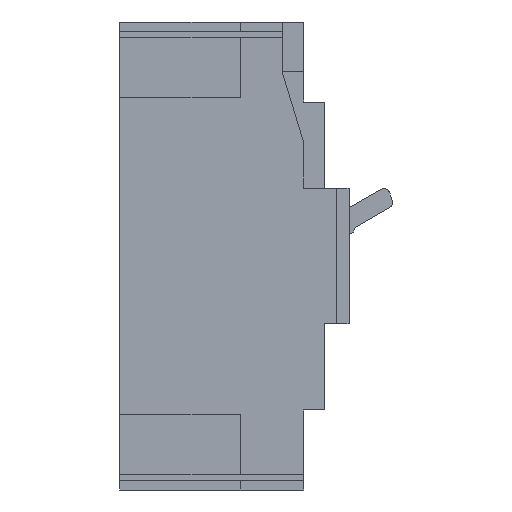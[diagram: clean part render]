
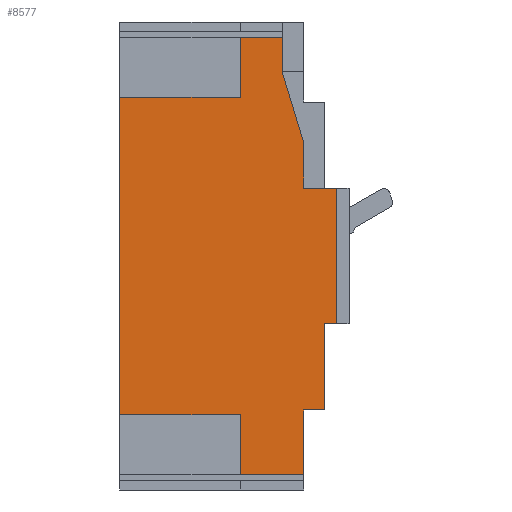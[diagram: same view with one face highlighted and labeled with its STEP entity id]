
A CAD part, left-side view. The second image highlights one B-rep face of the part: STEP entity #8577.
In plain terms, the highlighted planar face has unit normal (-1, 0, 0).
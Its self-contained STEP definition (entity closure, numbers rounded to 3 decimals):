
#2=DIRECTION('',(0.,-1.,0.));
#3=VECTOR('',#2,40.);
#4=CARTESIAN_POINT('',(-45.,30.5,-52.5));
#5=LINE('',#4,#3);
#6=DIRECTION('',(0.,0.,1.));
#7=VECTOR('',#6,105.);
#8=CARTESIAN_POINT('',(-45.,30.5,-52.5));
#9=LINE('',#8,#7);
#10=DIRECTION('',(0.,-1.,0.));
#11=VECTOR('',#10,40.);
#12=CARTESIAN_POINT('',(-45.,30.5,52.5));
#13=LINE('',#12,#11);
#14=DIRECTION('',(0.,0.,-1.));
#15=VECTOR('',#14,20.);
#16=CARTESIAN_POINT('',(-45.,-9.5,72.5));
#17=LINE('',#16,#15);
#18=DIRECTION('',(0.,-1.,0.));
#19=VECTOR('',#18,14.);
#20=CARTESIAN_POINT('',(-45.,-9.5,72.5));
#21=LINE('',#20,#19);
#22=DIRECTION('',(0.,0.,-1.));
#23=VECTOR('',#22,12.);
#24=CARTESIAN_POINT('',(-45.,-23.5,72.5));
#25=LINE('',#24,#23);
#26=DIRECTION('',(0.,0.291,0.957));
#27=VECTOR('',#26,24.042);
#28=CARTESIAN_POINT('',(-45.,-30.5,37.5));
#29=LINE('',#28,#27);
#30=DIRECTION('',(0.,0.,1.));
#31=VECTOR('',#30,15.);
#32=CARTESIAN_POINT('',(-45.,-30.5,22.5));
#33=LINE('',#32,#31);
#34=DIRECTION('',(0.,0.,-1.));
#35=VECTOR('',#34,45.);
#36=CARTESIAN_POINT('',(-45.,-41.5,22.5));
#37=LINE('',#36,#35);
#38=DIRECTION('',(0.,1.,0.));
#39=VECTOR('',#38,4.);
#40=CARTESIAN_POINT('',(-45.,-41.5,-22.5));
#41=LINE('',#40,#39);
#42=DIRECTION('',(0.,0.,-1.));
#43=VECTOR('',#42,28.5);
#44=CARTESIAN_POINT('',(-45.,-37.5,-22.5));
#45=LINE('',#44,#43);
#46=DIRECTION('',(0.,1.,0.));
#47=VECTOR('',#46,7.);
#48=CARTESIAN_POINT('',(-45.,-37.5,-51.));
#49=LINE('',#48,#47);
#50=DIRECTION('',(0.,0.,-1.));
#51=VECTOR('',#50,21.5);
#52=CARTESIAN_POINT('',(-45.,-30.5,-51.));
#53=LINE('',#52,#51);
#54=DIRECTION('',(0.,-1.,0.));
#55=VECTOR('',#54,21.);
#56=CARTESIAN_POINT('',(-45.,-9.5,-72.5));
#57=LINE('',#56,#55);
#58=DIRECTION('',(0.,0.,1.));
#59=VECTOR('',#58,20.);
#60=CARTESIAN_POINT('',(-45.,-9.5,-72.5));
#61=LINE('',#60,#59);
#707=DIRECTION('',(0.,1.,0.));
#708=VECTOR('',#707,11.);
#709=CARTESIAN_POINT('',(-45.,-41.5,22.5));
#710=LINE('',#709,#708);
#6430=CARTESIAN_POINT('',(-45.,-37.5,-22.5));
#6431=CARTESIAN_POINT('',(-45.,-37.5,-51.));
#6432=VERTEX_POINT('',#6430);
#6433=VERTEX_POINT('',#6431);
#6434=CARTESIAN_POINT('',(-45.,-30.5,-51.));
#6435=VERTEX_POINT('',#6434);
#7520=CARTESIAN_POINT('',(-45.,-30.5,-72.5));
#7521=VERTEX_POINT('',#7520);
#7562=CARTESIAN_POINT('',(-45.,-41.5,22.5));
#7563=CARTESIAN_POINT('',(-45.,-41.5,-22.5));
#7564=VERTEX_POINT('',#7562);
#7565=VERTEX_POINT('',#7563);
#7874=CARTESIAN_POINT('',(-45.,-30.5,22.5));
#7875=VERTEX_POINT('',#7874);
#7876=CARTESIAN_POINT('',(-45.,-30.5,37.5));
#7877=VERTEX_POINT('',#7876);
#7878=CARTESIAN_POINT('',(-45.,-23.5,60.5));
#7879=VERTEX_POINT('',#7878);
#7884=CARTESIAN_POINT('',(-45.,-23.5,72.5));
#7885=VERTEX_POINT('',#7884);
#8506=CARTESIAN_POINT('',(-45.,-9.5,-52.5));
#8507=VERTEX_POINT('',#8506);
#8508=CARTESIAN_POINT('',(-45.,-9.5,52.5));
#8509=VERTEX_POINT('',#8508);
#8510=CARTESIAN_POINT('',(-45.,30.5,-52.5));
#8511=VERTEX_POINT('',#8510);
#8516=CARTESIAN_POINT('',(-45.,-9.5,-72.5));
#8517=VERTEX_POINT('',#8516);
#8522=CARTESIAN_POINT('',(-45.,-9.5,72.5));
#8523=VERTEX_POINT('',#8522);
#8524=CARTESIAN_POINT('',(-45.,30.5,52.5));
#8525=VERTEX_POINT('',#8524);
#8538=CARTESIAN_POINT('',(-45.,0.,0.));
#8539=DIRECTION('',(1.,0.,0.));
#8540=DIRECTION('',(0.,-1.,0.));
#8541=AXIS2_PLACEMENT_3D('',#8538,#8539,#8540);
#8542=PLANE('',#8541);
#8544=ORIENTED_EDGE('',*,*,#8543,.F.);
#8546=ORIENTED_EDGE('',*,*,#8545,.T.);
#8548=ORIENTED_EDGE('',*,*,#8547,.T.);
#8550=ORIENTED_EDGE('',*,*,#8549,.F.);
#8552=ORIENTED_EDGE('',*,*,#8551,.T.);
#8554=ORIENTED_EDGE('',*,*,#8553,.T.);
#8556=ORIENTED_EDGE('',*,*,#8555,.F.);
#8558=ORIENTED_EDGE('',*,*,#8557,.F.);
#8560=ORIENTED_EDGE('',*,*,#8559,.F.);
#8562=ORIENTED_EDGE('',*,*,#8561,.T.);
#8564=ORIENTED_EDGE('',*,*,#8563,.T.);
#8566=ORIENTED_EDGE('',*,*,#8565,.T.);
#8568=ORIENTED_EDGE('',*,*,#8567,.T.);
#8570=ORIENTED_EDGE('',*,*,#8569,.T.);
#8572=ORIENTED_EDGE('',*,*,#8571,.F.);
#8574=ORIENTED_EDGE('',*,*,#8573,.T.);
#8575=EDGE_LOOP('',(#8544,#8546,#8548,#8550,#8552,#8554,#8556,#8558,#8560,#8562,
#8564,#8566,#8568,#8570,#8572,#8574));
#8576=FACE_OUTER_BOUND('',#8575,.F.);
#8543=EDGE_CURVE('',#8511,#8507,#5,.T.);
#8545=EDGE_CURVE('',#8511,#8525,#9,.T.);
#8547=EDGE_CURVE('',#8525,#8509,#13,.T.);
#8549=EDGE_CURVE('',#8523,#8509,#17,.T.);
#8551=EDGE_CURVE('',#8523,#7885,#21,.T.);
#8553=EDGE_CURVE('',#7885,#7879,#25,.T.);
#8555=EDGE_CURVE('',#7877,#7879,#29,.T.);
#8557=EDGE_CURVE('',#7875,#7877,#33,.T.);
#8559=EDGE_CURVE('',#7564,#7875,#710,.T.);
#8561=EDGE_CURVE('',#7564,#7565,#37,.T.);
#8563=EDGE_CURVE('',#7565,#6432,#41,.T.);
#8565=EDGE_CURVE('',#6432,#6433,#45,.T.);
#8567=EDGE_CURVE('',#6433,#6435,#49,.T.);
#8569=EDGE_CURVE('',#6435,#7521,#53,.T.);
#8571=EDGE_CURVE('',#8517,#7521,#57,.T.);
#8573=EDGE_CURVE('',#8517,#8507,#61,.T.);
#8577=ADVANCED_FACE('',(#8576),#8542,.F.);
